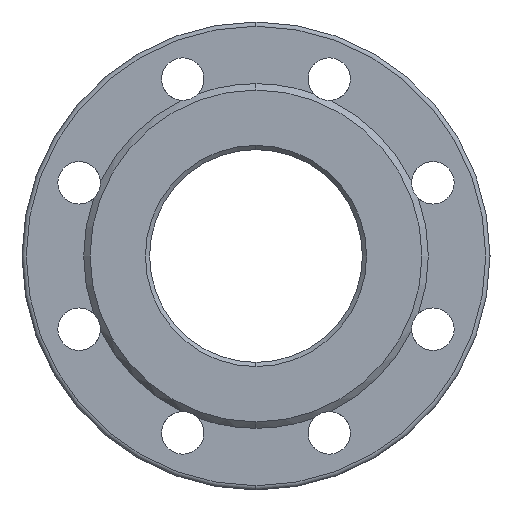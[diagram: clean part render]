
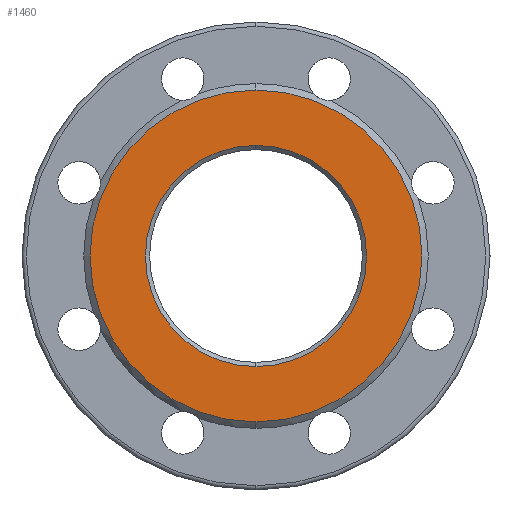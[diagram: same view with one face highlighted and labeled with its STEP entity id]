
A CAD part, left-side view. The second image highlights one B-rep face of the part: STEP entity #1460.
In plain terms, the highlighted planar face has unit normal (-1, 0, 0).
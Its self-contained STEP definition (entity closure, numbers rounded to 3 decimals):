
#2 = CARTESIAN_POINT ( 'NONE',  ( -350., 0., -78. ) ) ;
#523 = DIRECTION ( 'NONE',  ( 0., 0., 1. ) ) ;
#751 = EDGE_LOOP ( 'NONE', ( #2848, #4856 ) ) ;
#774 = AXIS2_PLACEMENT_3D ( 'NONE', #3841, #3040, #1045 ) ;
#910 = VERTEX_POINT ( 'NONE', #4947 ) ;
#1045 = DIRECTION ( 'NONE',  ( 0., 0., -1. ) ) ;
#1081 = DIRECTION ( 'NONE',  ( -1., 0., 0. ) ) ;
#1105 = CIRCLE ( 'NONE', #774, 52. ) ;
#1151 = CARTESIAN_POINT ( 'NONE',  ( -350., 50., 0. ) ) ;
#1205 = DIRECTION ( 'NONE',  ( 1., 0., 0. ) ) ;
#1460 = ADVANCED_FACE ( 'Defeatured_0_4', ( #3195, #2857 ), #1631, .F. ) ;
#1501 = AXIS2_PLACEMENT_3D ( 'NONE', #4671, #1081, #5030 ) ;
#1592 = VERTEX_POINT ( 'NONE', #2 ) ;
#1631 = PLANE ( 'NONE',  #2439 ) ;
#1760 = CIRCLE ( 'NONE', #1501, 78. ) ;
#2087 = CIRCLE ( 'NONE', #2505, 52. ) ;
#2216 = ORIENTED_EDGE ( 'NONE', *, *, #4410, .T. ) ;
#2439 = AXIS2_PLACEMENT_3D ( 'NONE', #1151, #1205, #3221 ) ;
#2453 = VERTEX_POINT ( 'NONE', #3959 ) ;
#2505 = AXIS2_PLACEMENT_3D ( 'NONE', #4348, #3547, #5117 ) ;
#2620 = DIRECTION ( 'NONE',  ( -1., 0., 0. ) ) ;
#2848 = ORIENTED_EDGE ( 'NONE', *, *, #4094, .T. ) ;
#2857 = FACE_OUTER_BOUND ( 'NONE', #3409, .T. ) ;
#2946 = EDGE_CURVE ( 'Defeatured_0_4+Defeatured_0_20+Defeatured_0_20+Defeatured_0_20', #2453, #910, #1105, .T. ) ;
#3040 = DIRECTION ( 'NONE',  ( 1., 0., 0. ) ) ;
#3195 = FACE_BOUND ( 'NONE', #751, .T. ) ;
#3203 = ORIENTED_EDGE ( 'NONE', *, *, #4716, .T. ) ;
#3221 = DIRECTION ( 'NONE',  ( 0., 0., -1. ) ) ;
#3247 = CIRCLE ( 'NONE', #4159, 78. ) ;
#3409 = EDGE_LOOP ( 'NONE', ( #2216, #3203 ) ) ;
#3547 = DIRECTION ( 'NONE',  ( 1., 0., 0. ) ) ;
#3701 = CARTESIAN_POINT ( 'NONE',  ( -350., 0., 78. ) ) ;
#3841 = CARTESIAN_POINT ( 'NONE',  ( -350., 0., 0. ) ) ;
#3959 = CARTESIAN_POINT ( 'NONE',  ( -350., 0., -52. ) ) ;
#4094 = EDGE_CURVE ( 'Defeatured_0_4+Defeatured_0_20+Defeatured_0_20+Defeatured_0_20', #910, #2453, #2087, .T. ) ;
#4159 = AXIS2_PLACEMENT_3D ( 'NONE', #4819, #2620, #523 ) ;
#4177 = VERTEX_POINT ( 'NONE', #3701 ) ;
#4348 = CARTESIAN_POINT ( 'NONE',  ( -350., 0., 0. ) ) ;
#4410 = EDGE_CURVE ( 'Defeatured_0_4+Defeatured_0_0+Defeatured_0_0+Defeatured_0_0', #1592, #4177, #1760, .T. ) ;
#4671 = CARTESIAN_POINT ( 'NONE',  ( -350., 0., 0. ) ) ;
#4716 = EDGE_CURVE ( 'Defeatured_0_4+Defeatured_0_0+Defeatured_0_0+Defeatured_0_0', #4177, #1592, #3247, .T. ) ;
#4819 = CARTESIAN_POINT ( 'NONE',  ( -350., 0., 0. ) ) ;
#4856 = ORIENTED_EDGE ( 'NONE', *, *, #2946, .T. ) ;
#4947 = CARTESIAN_POINT ( 'NONE',  ( -350., 0., 52. ) ) ;
#5030 = DIRECTION ( 'NONE',  ( 0., 0., 1. ) ) ;
#5117 = DIRECTION ( 'NONE',  ( 0., 0., -1. ) ) ;
